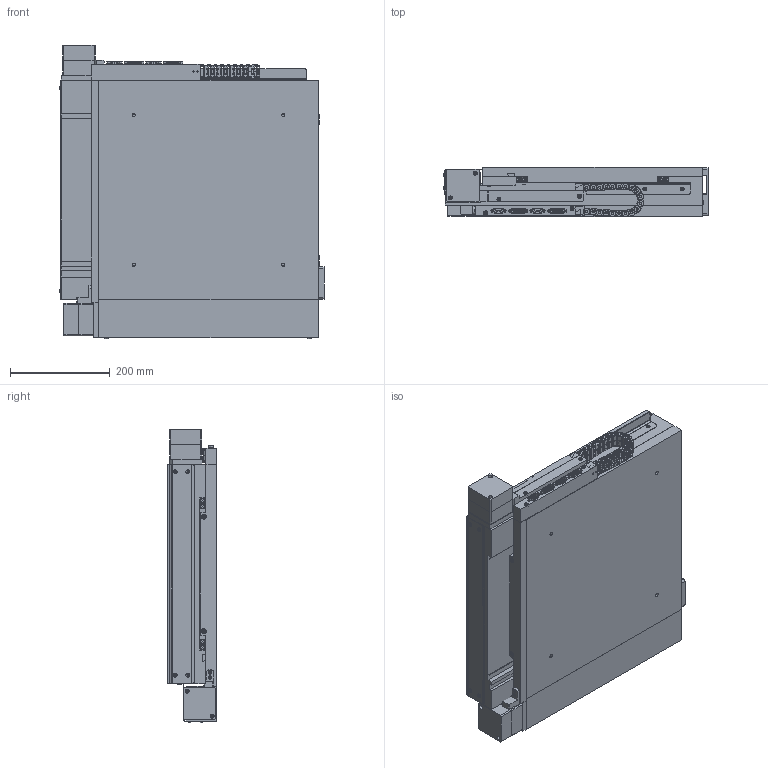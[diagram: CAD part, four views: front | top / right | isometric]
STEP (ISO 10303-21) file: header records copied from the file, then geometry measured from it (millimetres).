
FILE_DESCRIPTION (( 'STEP AP214' ), '1' );
FILE_NAME ('GXY-320-Linear Encoder-EXPORT.STEP', '2025-07-08T14:05:21', ( 'lab' ), ( '' ), 'SwSTEP 2.0', 'SolidWorks 2018', '' );
FILE_SCHEMA (( 'AUTOMOTIVE_DESIGN' ));
Length unit declared in the file: millimetre
Products named in the file (15): 1000003_file_export4; 1000009_91239A109; GXY-320-Linear Encoder-EXPORT; 1000011; 1000012_file_export48; 1000004_file_export7; 1000002_320; 1000005; 1000007_file_export2; 1000008; 1000013_file_export47; 1000014_file_export62; 1000001_320; 1000010; 1000006_file_export13
Assembly tree (51 placements, depth 2):
  GXY-320-Linear Encoder-EXPORT
    1000001_320
    1000002_320
    1000003_file_export4
    1000004_file_export7  x2
    1000005  x2
    1000006_file_export13  x6
    1000007_file_export2
    1000008
    1000009_91239A109  x4
    1000010
    1000011  x19
    1000012_file_export48  x2
    1000013_file_export47  x2
    1000014_file_export62  x8
Bounding box: 530.15 x 99 x 588.14 mm (x, y, z)
Volume: 24014166.1 mm3; surface area: 2387586.3 mm2
Topology: 167 solids, 167 shells, 5679 faces, 13876 edges, 8686 vertices
Faces by surface type: plane 3435, cylinder 1502, cone 374, bspline 340, torus 28
Entity records: 91727 total; most frequent: CARTESIAN_POINT 19746, DIRECTION 13307, ORIENTED_EDGE 12828, EDGE_CURVE 6414, AXIS2_PLACEMENT_3D 4484, VECTOR 4339, LINE 4339, VERTEX_POINT 3963
